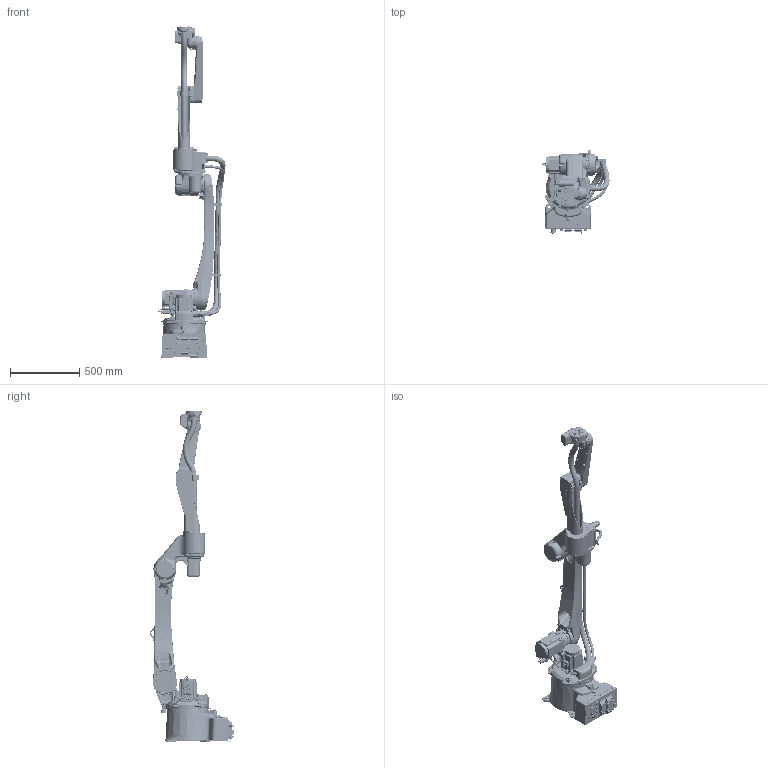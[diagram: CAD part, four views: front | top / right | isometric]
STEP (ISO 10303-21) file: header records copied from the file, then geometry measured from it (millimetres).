
FILE_DESCRIPTION(('CATIA V5 STEP Exchange','CAx-IF Rec.Pracs.--- Composite Materials ---3.4---2017-06-13'),'2;1');
FILE_NAME('D:\モデリング\☆☆☆STEP\BA\BA006L-AC01_220225\軽量化\Part\BA006L-AC01.stp','2022-03-04T00:30:43+00:00',('none'),('none'),'CATIA Version 5-6 Release 2020 SP4 HF11','CATIA V5 STEP AP203 v2','none');
FILE_SCHEMA(('CONFIG_CONTROL_DESIGN'));
Products named in the file (1): BA006L-AC01
Assembly tree (8 placements, depth 2):
  BA006L-AC01
    #57
    #35870
    #108001
    #157077
    #192220
    #233063
    #266272
    #267415
Bounding box: 484.96 x 611.79 x 2400 mm (x, y, z)
Volume: 64452344.5 mm3; surface area: 3763227.3 mm2
Topology: 46 solids, 46 shells, 5840 faces, 14499 edges, 8922 vertices
Faces by surface type: plane 1954, cylinder 1822, bspline 1332, torus 352, cone 255, sphere 73, extrusion 29, revolution 23
Entity records: 269854 total; most frequent: CARTESIAN_POINT 150727, ORIENTED_EDGE 28524, DIRECTION 16496, EDGE_CURVE 14262, VERTEX_POINT 8922, AXIS2_PLACEMENT_3D 7584, EDGE_LOOP 6362, ADVANCED_FACE 5840
